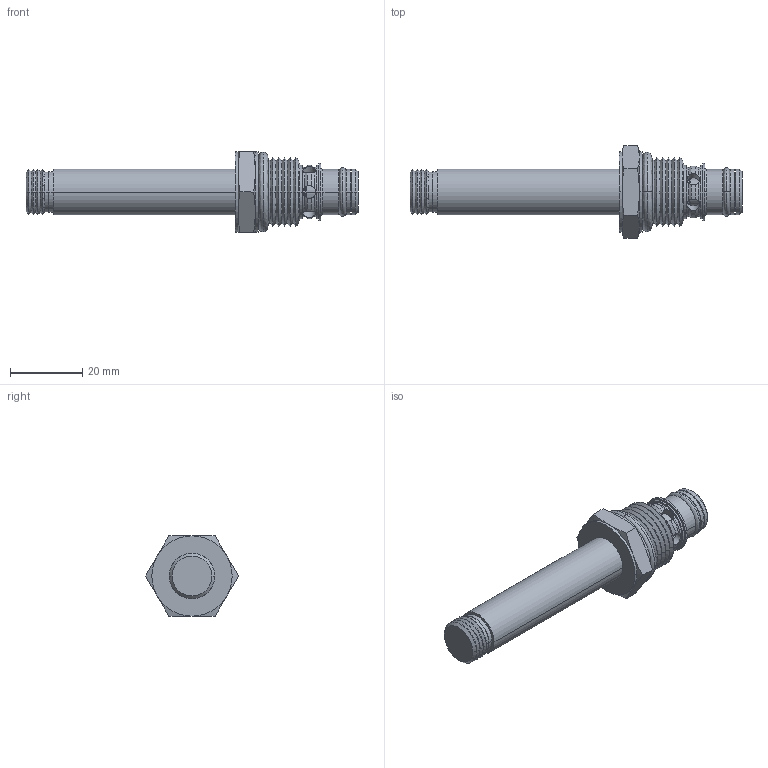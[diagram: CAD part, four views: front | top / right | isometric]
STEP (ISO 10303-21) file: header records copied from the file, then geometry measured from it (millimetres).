
FILE_DESCRIPTION((''),'2;1');
FILE_NAME('U:\Solid model CD\Solid model full\Solenoid\STEP\PBS2C00-3D Full.stp','2008-06-23T11:30:55',('Dan'),(''),'Autodesk Inventor 9','Autodesk Inventor 9','');
FILE_SCHEMA(('AUTOMOTIVE_DESIGN { 1 0 10303 214 1 1 1 1 }'));
Length unit declared in the file: inch
Products named in the file (5): PBS2C00-3D Full; PBS2C00-3D Full1; PBS2C00-3D Full2; PBS2C00-3D Full3; PBS2C00-3D Full4
Assembly tree (4 placements, depth 2):
  PBS2C00-3D Full
    PBS2C00-3D Full1
    PBS2C00-3D Full2
    PBS2C00-3D Full3
    PBS2C00-3D Full4
Bounding box: 91.88 x 25.66 x 22.23 mm (x, y, z)
Volume: 14545.7 mm3; surface area: 6978.6 mm2
Topology: 4 solids, 4 shells, 191 faces, 466 edges, 290 vertices
Faces by surface type: bspline 148, cone 20, cylinder 14, plane 7, torus 2
Entity records: 8452 total; most frequent: CARTESIAN_POINT 4376, ORIENTED_EDGE 932, DIRECTION 718, EDGE_CURVE 466, AXIS2_PLACEMENT_3D 302, VERTEX_POINT 290, CIRCLE 250, EDGE_LOOP 216
